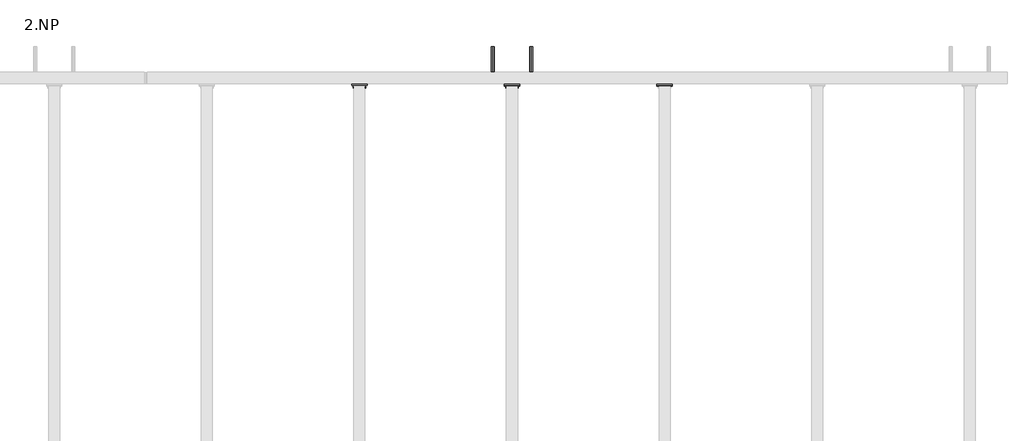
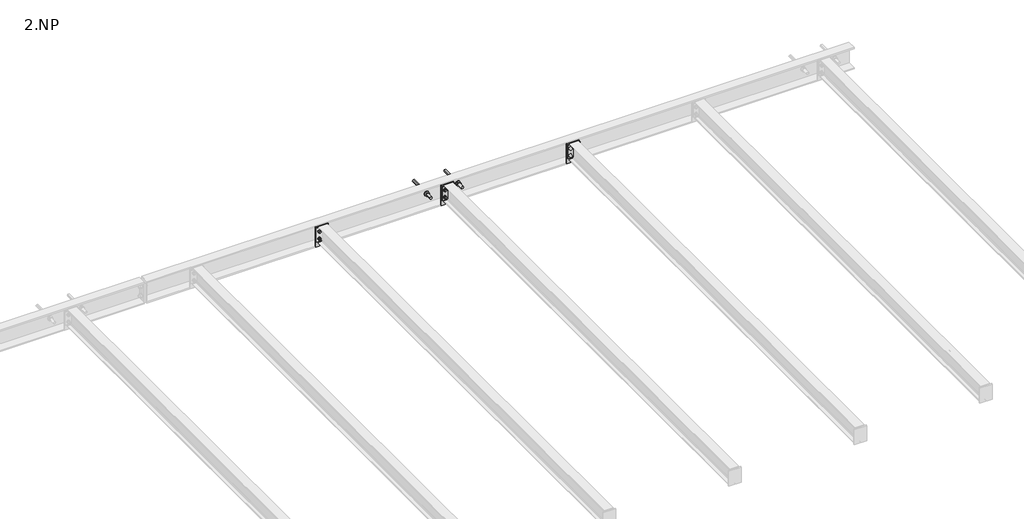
# One storey, part 12 of 18: 11 proxies.
"""IFC4 building model written with IfcOpenShell, lengths in millimetres."""

from ifc_helpers import new_model, si_unit, point, frame, frame_2d, origin, place, context, project, spatial, polyline, circle_curve, trimmed, segment, composite_curve, outline, extrude, element, save

model = new_model("IFC4")

# Units and contexts
model_context = context("Model", 3, world=origin())
ifc_project = project(units=[si_unit("LENGTHUNIT", "METRE", prefix="MILLI")], contexts=[model_context])

# Site, building, storey
site = spatial("IfcSite", under=ifc_project)
building = spatial("IfcBuilding", under=site)
storey = spatial("IfcBuildingStorey", under=building, Name="2.NP", Elevation=3000.0)

# Proxies
placement = place(None, origin())
element("IfcBuildingElementProxy", 1, Name="PLECH", ObjectType="PLECH", at=placement, inside=storey, context=model_context, shape_type="SweptSolid", body=[
    extrude(outline(polyline([(9000.0, 3775.0), (9100.0, 3775.0), (9100.0, 3767.0), (9000.0, 3767.0), (9000.0, 3775.0)])), frame((0.0, 0.0, 3175.0), z_axis=(0.0, 0.0, 1.0), x_axis=(1.0, 0.0, 0.0)), (0.0, 0.0, 1.0), 110.0),
])
element("IfcBuildingElementProxy", 2, Name="PLECH", ObjectType="PLECH", at=placement, inside=storey, context=model_context, shape_type="SweptSolid", body=[
    extrude(outline(polyline([(10000.0, 3775.0), (10100.0, 3775.0), (10100.0, 3767.0), (10000.0, 3767.0), (10000.0, 3775.0)])), frame((0.0, 0.0, 3175.0), z_axis=(0.0, 0.0, 1.0), x_axis=(1.0, 0.0, 0.0)), (0.0, 0.0, 1.0), 110.0),
])
element("IfcBuildingElementProxy", 3, Name="PLECH", ObjectType="PLECH", at=placement, inside=storey, context=model_context, shape_type="SweptSolid", body=[
    extrude(outline(polyline([(8000.0, 3785.0), (8100.0, 3785.0), (8100.0, 3775.0), (8000.0, 3775.0), (8000.0, 3785.0)])), frame((0.0, 0.0, 3128.0), z_axis=(0.0, 0.0, 1.0), x_axis=(1.0, 0.0, 0.0)), (0.0, 0.0, 1.0), 164.0),
])
element("IfcBuildingElementProxy", 4, Name="PLECH", ObjectType="PLECH", at=placement, inside=storey, context=model_context, shape_type="SweptSolid", body=[
    extrude(outline(composite_curve([segment(polyline([(3785.0, 3289.5), (3834.5, 3289.5)]), True, "CONTINUOUS"), segment(trimmed(circle_curve(frame_2d((3854.5, 3289.5)), 20.0), [point((3834.5, 3289.5))], [point((3854.5, 3269.5))], True, "CARTESIAN"), True, "CONTINUOUS"), segment(polyline([(3854.5, 3269.5), (3854.5, 3150.5)]), True, "CONTINUOUS"), segment(trimmed(circle_curve(frame_2d((3854.5, 3130.5)), 20.0), [point((3854.5, 3150.5))], [point((3834.5, 3130.5))], True, "CARTESIAN"), True, "CONTINUOUS"), segment(polyline([(3834.5, 3130.5), (3785.0, 3130.5), (3785.0, 3289.5)]), True, "CONTINUOUS")], self_intersect=False)), frame((8047.0, 0.0, 0.0), z_axis=(1.0, 0.0, 0.0), x_axis=(0.0, 1.0, 0.0)), (0.0, 0.0, 1.0), 6.0),
])
element("IfcBuildingElementProxy", 5, Name="PLECH", ObjectType="PLECH", at=placement, inside=storey, context=model_context, shape_type="SweptSolid", body=[
    extrude(outline(polyline([(9000.0, 3785.0), (9100.0, 3785.0), (9100.0, 3775.0), (9000.0, 3775.0), (9000.0, 3785.0)])), frame((0.0, 0.0, 3128.0), z_axis=(0.0, 0.0, 1.0), x_axis=(1.0, 0.0, 0.0)), (0.0, 0.0, 1.0), 164.0),
])
element("IfcBuildingElementProxy", 6, Name="PLECH", ObjectType="PLECH", at=placement, inside=storey, context=model_context, shape_type="SweptSolid", body=[
    extrude(outline(composite_curve([segment(polyline([(3785.0, 3289.5), (3834.5, 3289.5)]), True, "CONTINUOUS"), segment(trimmed(circle_curve(frame_2d((3854.5, 3289.5)), 20.0), [point((3834.5, 3289.5))], [point((3854.5, 3269.5))], True, "CARTESIAN"), True, "CONTINUOUS"), segment(polyline([(3854.5, 3269.5), (3854.5, 3150.5)]), True, "CONTINUOUS"), segment(trimmed(circle_curve(frame_2d((3854.5, 3130.5)), 20.0), [point((3854.5, 3150.5))], [point((3834.5, 3130.5))], True, "CARTESIAN"), True, "CONTINUOUS"), segment(polyline([(3834.5, 3130.5), (3785.0, 3130.5), (3785.0, 3289.5)]), True, "CONTINUOUS")], self_intersect=False)), frame((9047.0, 0.0, 0.0), z_axis=(1.0, 0.0, 0.0), x_axis=(0.0, 1.0, 0.0)), (0.0, 0.0, 1.0), 6.0),
])
element("IfcBuildingElementProxy", 7, Name="PLECH", ObjectType="PLECH", at=placement, inside=storey, context=model_context, shape_type="SweptSolid", body=[
    extrude(outline(polyline([(10000.0, 3785.0), (10100.0, 3785.0), (10100.0, 3775.0), (10000.0, 3775.0), (10000.0, 3785.0)])), frame((0.0, 0.0, 3128.0), z_axis=(0.0, 0.0, 1.0), x_axis=(1.0, 0.0, 0.0)), (0.0, 0.0, 1.0), 164.0),
])
element("IfcBuildingElementProxy", 8, Name="PLECH", ObjectType="PLECH", at=placement, inside=storey, context=model_context, shape_type="SweptSolid", body=[
    extrude(outline(composite_curve([segment(polyline([(3785.0, 3289.5), (3834.5, 3289.5)]), True, "CONTINUOUS"), segment(trimmed(circle_curve(frame_2d((3854.5, 3289.5)), 20.0), [point((3834.5, 3289.5))], [point((3854.5, 3269.5))], True, "CARTESIAN"), True, "CONTINUOUS"), segment(polyline([(3854.5, 3269.5), (3854.5, 3150.5)]), True, "CONTINUOUS"), segment(trimmed(circle_curve(frame_2d((3854.5, 3130.5)), 20.0), [point((3854.5, 3150.5))], [point((3834.5, 3130.5))], True, "CARTESIAN"), True, "CONTINUOUS"), segment(polyline([(3834.5, 3130.5), (3785.0, 3130.5), (3785.0, 3289.5)]), True, "CONTINUOUS")], self_intersect=False)), frame((10047.0, 0.0, 0.0), z_axis=(1.0, 0.0, 0.0), x_axis=(0.0, 1.0, 0.0)), (0.0, 0.0, 1.0), 6.0),
])
element("IfcBuildingElementProxy", 9, Name="Bolt assembly", ObjectType="Bolt assembly", at=placement, inside=storey, context=model_context, shape_type="SweptSolid", body=[
    extrude(outline(composite_curve([segment(trimmed(circle_curve(frame_2d((3260.0, 8020.0)), 6.5), [point((3260.0, 8026.5))], [point((3260.0, 8013.5))], False, "CARTESIAN"), True, "CONTINUOUS"), segment(trimmed(circle_curve(frame_2d((3260.0, 8020.0)), 6.5), [point((3260.0, 8013.5))], [point((3260.0, 8026.5))], False, "CARTESIAN"), True, "CONTINUOUS")], self_intersect=False)), frame((0.0, 3774.9, 0.0), z_axis=(0.0, 1.0, 0.0), x_axis=(0.0, 0.0, 1.0)), (0.0, 0.0, 1.0), 10.0),
    extrude(outline(polyline([(3260.0, 8030.9696551), (3269.5, 8025.4848276), (3269.5, 8014.5151724), (3260.0, 8009.0303449), (3250.5, 8014.5151724), (3250.5, 8025.4848276), (3260.0, 8030.9696551)])), frame((0.0, 3787.5, 0.0), z_axis=(0.0, 1.0, 0.0), x_axis=(0.0, 0.0, 1.0)), (0.0, 0.0, 1.0), 7.5),
    extrude(outline(composite_curve([segment(trimmed(circle_curve(frame_2d((3260.0, 8020.0)), 6.0), [point((3260.0, 8026.0))], [point((3260.0, 8014.0))], False, "CARTESIAN"), True, "CONTINUOUS"), segment(trimmed(circle_curve(frame_2d((3260.0, 8020.0)), 6.0), [point((3260.0, 8014.0))], [point((3260.0, 8026.0))], False, "CARTESIAN"), True, "CONTINUOUS")], self_intersect=False)), frame((0.0, 3747.5, 0.0), z_axis=(0.0, 1.0, 0.0), x_axis=(0.0, 0.0, 1.0)), (0.0, 0.0, 1.0), 40.0),
    extrude(outline(composite_curve([segment(trimmed(circle_curve(frame_2d((3260.0, 8020.0)), 12.0), [point((3260.0, 8032.0))], [point((3260.0, 8008.0))], False, "CARTESIAN"), True, "CONTINUOUS"), segment(trimmed(circle_curve(frame_2d((3260.0, 8020.0)), 12.0), [point((3260.0, 8008.0))], [point((3260.0, 8032.0))], False, "CARTESIAN"), True, "CONTINUOUS")], self_intersect=False)), frame((0.0, 3785.0, 0.0), z_axis=(0.0, 1.0, 0.0), x_axis=(0.0, 0.0, 1.0)), (0.0, 0.0, 1.0), 2.5),
    extrude(outline(composite_curve([segment(trimmed(circle_curve(frame_2d((3260.0, 8020.0)), 12.0), [point((3260.0, 8032.0))], [point((3260.0, 8008.0))], False, "CARTESIAN"), True, "CONTINUOUS"), segment(trimmed(circle_curve(frame_2d((3260.0, 8020.0)), 12.0), [point((3260.0, 8008.0))], [point((3260.0, 8032.0))], False, "CARTESIAN"), True, "CONTINUOUS")], self_intersect=False)), frame((0.0, 3764.5, 0.0), z_axis=(0.0, 1.0, 0.0), x_axis=(0.0, 0.0, 1.0)), (0.0, 0.0, 1.0), 2.5),
    extrude(outline(polyline([(3260.0, 8030.9696551), (3269.5, 8025.4848276), (3269.5, 8014.5151724), (3260.0, 8009.0303449), (3250.5, 8014.5151724), (3250.5, 8025.4848276), (3260.0, 8030.9696551)])), frame((0.0, 3754.5, 0.0), z_axis=(0.0, 1.0, 0.0), x_axis=(0.0, 0.0, 1.0)), (0.0, 0.0, 1.0), 10.0),
    extrude(outline(composite_curve([segment(trimmed(circle_curve(frame_2d((3260.0, 8020.0)), 6.5), [point((3260.0, 8026.5))], [point((3260.0, 8013.5))], False, "CARTESIAN"), True, "CONTINUOUS"), segment(trimmed(circle_curve(frame_2d((3260.0, 8020.0)), 6.5), [point((3260.0, 8013.5))], [point((3260.0, 8026.5))], False, "CARTESIAN"), True, "CONTINUOUS")], self_intersect=False)), frame((0.0, 3767.0, 0.0), z_axis=(0.0, 1.0, 0.0), x_axis=(0.0, 0.0, 1.0)), (0.0, 0.0, 1.0), 8.1),
    extrude(outline(composite_curve([segment(trimmed(circle_curve(frame_2d((3260.0, 8080.0)), 6.5), [point((3260.0, 8086.5))], [point((3260.0, 8073.5))], False, "CARTESIAN"), True, "CONTINUOUS"), segment(trimmed(circle_curve(frame_2d((3260.0, 8080.0)), 6.5), [point((3260.0, 8073.5))], [point((3260.0, 8086.5))], False, "CARTESIAN"), True, "CONTINUOUS")], self_intersect=False)), frame((0.0, 3774.9, 0.0), z_axis=(0.0, 1.0, 0.0), x_axis=(0.0, 0.0, 1.0)), (0.0, 0.0, 1.0), 10.0),
    extrude(outline(polyline([(3260.0, 8090.9696551), (3269.5, 8085.4848276), (3269.5, 8074.5151724), (3260.0, 8069.0303449), (3250.5, 8074.5151724), (3250.5, 8085.4848276), (3260.0, 8090.9696551)])), frame((0.0, 3787.5, 0.0), z_axis=(0.0, 1.0, 0.0), x_axis=(0.0, 0.0, 1.0)), (0.0, 0.0, 1.0), 7.5),
    extrude(outline(composite_curve([segment(trimmed(circle_curve(frame_2d((3260.0, 8080.0)), 6.0), [point((3260.0, 8086.0))], [point((3260.0, 8074.0))], False, "CARTESIAN"), True, "CONTINUOUS"), segment(trimmed(circle_curve(frame_2d((3260.0, 8080.0)), 6.0), [point((3260.0, 8074.0))], [point((3260.0, 8086.0))], False, "CARTESIAN"), True, "CONTINUOUS")], self_intersect=False)), frame((0.0, 3747.5, 0.0), z_axis=(0.0, 1.0, 0.0), x_axis=(0.0, 0.0, 1.0)), (0.0, 0.0, 1.0), 40.0),
    extrude(outline(composite_curve([segment(trimmed(circle_curve(frame_2d((3260.0, 8080.0)), 12.0), [point((3260.0, 8092.0))], [point((3260.0, 8068.0))], False, "CARTESIAN"), True, "CONTINUOUS"), segment(trimmed(circle_curve(frame_2d((3260.0, 8080.0)), 12.0), [point((3260.0, 8068.0))], [point((3260.0, 8092.0))], False, "CARTESIAN"), True, "CONTINUOUS")], self_intersect=False)), frame((0.0, 3785.0, 0.0), z_axis=(0.0, 1.0, 0.0), x_axis=(0.0, 0.0, 1.0)), (0.0, 0.0, 1.0), 2.5),
    extrude(outline(composite_curve([segment(trimmed(circle_curve(frame_2d((3260.0, 8080.0)), 12.0), [point((3260.0, 8092.0))], [point((3260.0, 8068.0))], False, "CARTESIAN"), True, "CONTINUOUS"), segment(trimmed(circle_curve(frame_2d((3260.0, 8080.0)), 12.0), [point((3260.0, 8068.0))], [point((3260.0, 8092.0))], False, "CARTESIAN"), True, "CONTINUOUS")], self_intersect=False)), frame((0.0, 3764.5, 0.0), z_axis=(0.0, 1.0, 0.0), x_axis=(0.0, 0.0, 1.0)), (0.0, 0.0, 1.0), 2.5),
    extrude(outline(polyline([(3260.0, 8090.9696551), (3269.5, 8085.4848276), (3269.5, 8074.5151724), (3260.0, 8069.0303449), (3250.5, 8074.5151724), (3250.5, 8085.4848276), (3260.0, 8090.9696551)])), frame((0.0, 3754.5, 0.0), z_axis=(0.0, 1.0, 0.0), x_axis=(0.0, 0.0, 1.0)), (0.0, 0.0, 1.0), 10.0),
    extrude(outline(composite_curve([segment(trimmed(circle_curve(frame_2d((3260.0, 8080.0)), 6.5), [point((3260.0, 8086.5))], [point((3260.0, 8073.5))], False, "CARTESIAN"), True, "CONTINUOUS"), segment(trimmed(circle_curve(frame_2d((3260.0, 8080.0)), 6.5), [point((3260.0, 8073.5))], [point((3260.0, 8086.5))], False, "CARTESIAN"), True, "CONTINUOUS")], self_intersect=False)), frame((0.0, 3767.0, 0.0), z_axis=(0.0, 1.0, 0.0), x_axis=(0.0, 0.0, 1.0)), (0.0, 0.0, 1.0), 8.1),
    extrude(outline(composite_curve([segment(trimmed(circle_curve(frame_2d((3200.0, 8020.0)), 6.5), [point((3200.0, 8026.5))], [point((3200.0, 8013.5))], False, "CARTESIAN"), True, "CONTINUOUS"), segment(trimmed(circle_curve(frame_2d((3200.0, 8020.0)), 6.5), [point((3200.0, 8013.5))], [point((3200.0, 8026.5))], False, "CARTESIAN"), True, "CONTINUOUS")], self_intersect=False)), frame((0.0, 3774.9, 0.0), z_axis=(0.0, 1.0, 0.0), x_axis=(0.0, 0.0, 1.0)), (0.0, 0.0, 1.0), 10.0),
    extrude(outline(polyline([(3200.0, 8030.9696551), (3209.5, 8025.4848276), (3209.5, 8014.5151724), (3200.0, 8009.0303449), (3190.5, 8014.5151724), (3190.5, 8025.4848276), (3200.0, 8030.9696551)])), frame((0.0, 3787.5, 0.0), z_axis=(0.0, 1.0, 0.0), x_axis=(0.0, 0.0, 1.0)), (0.0, 0.0, 1.0), 7.5),
    extrude(outline(composite_curve([segment(trimmed(circle_curve(frame_2d((3200.0, 8020.0)), 6.0), [point((3200.0, 8026.0))], [point((3200.0, 8014.0))], False, "CARTESIAN"), True, "CONTINUOUS"), segment(trimmed(circle_curve(frame_2d((3200.0, 8020.0)), 6.0), [point((3200.0, 8014.0))], [point((3200.0, 8026.0))], False, "CARTESIAN"), True, "CONTINUOUS")], self_intersect=False)), frame((0.0, 3747.5, 0.0), z_axis=(0.0, 1.0, 0.0), x_axis=(0.0, 0.0, 1.0)), (0.0, 0.0, 1.0), 40.0),
    extrude(outline(composite_curve([segment(trimmed(circle_curve(frame_2d((3200.0, 8020.0)), 12.0), [point((3200.0, 8032.0))], [point((3200.0, 8008.0))], False, "CARTESIAN"), True, "CONTINUOUS"), segment(trimmed(circle_curve(frame_2d((3200.0, 8020.0)), 12.0), [point((3200.0, 8008.0))], [point((3200.0, 8032.0))], False, "CARTESIAN"), True, "CONTINUOUS")], self_intersect=False)), frame((0.0, 3785.0, 0.0), z_axis=(0.0, 1.0, 0.0), x_axis=(0.0, 0.0, 1.0)), (0.0, 0.0, 1.0), 2.5),
    extrude(outline(composite_curve([segment(trimmed(circle_curve(frame_2d((3200.0, 8020.0)), 12.0), [point((3200.0, 8032.0))], [point((3200.0, 8008.0))], False, "CARTESIAN"), True, "CONTINUOUS"), segment(trimmed(circle_curve(frame_2d((3200.0, 8020.0)), 12.0), [point((3200.0, 8008.0))], [point((3200.0, 8032.0))], False, "CARTESIAN"), True, "CONTINUOUS")], self_intersect=False)), frame((0.0, 3764.5, 0.0), z_axis=(0.0, 1.0, 0.0), x_axis=(0.0, 0.0, 1.0)), (0.0, 0.0, 1.0), 2.5),
    extrude(outline(polyline([(3200.0, 8030.9696551), (3209.5, 8025.4848276), (3209.5, 8014.5151724), (3200.0, 8009.0303449), (3190.5, 8014.5151724), (3190.5, 8025.4848276), (3200.0, 8030.9696551)])), frame((0.0, 3754.5, 0.0), z_axis=(0.0, 1.0, 0.0), x_axis=(0.0, 0.0, 1.0)), (0.0, 0.0, 1.0), 10.0),
    extrude(outline(composite_curve([segment(trimmed(circle_curve(frame_2d((3200.0, 8020.0)), 6.5), [point((3200.0, 8026.5))], [point((3200.0, 8013.5))], False, "CARTESIAN"), True, "CONTINUOUS"), segment(trimmed(circle_curve(frame_2d((3200.0, 8020.0)), 6.5), [point((3200.0, 8013.5))], [point((3200.0, 8026.5))], False, "CARTESIAN"), True, "CONTINUOUS")], self_intersect=False)), frame((0.0, 3767.0, 0.0), z_axis=(0.0, 1.0, 0.0), x_axis=(0.0, 0.0, 1.0)), (0.0, 0.0, 1.0), 8.1),
    extrude(outline(composite_curve([segment(trimmed(circle_curve(frame_2d((3200.0, 8080.0)), 6.5), [point((3200.0, 8086.5))], [point((3200.0, 8073.5))], False, "CARTESIAN"), True, "CONTINUOUS"), segment(trimmed(circle_curve(frame_2d((3200.0, 8080.0)), 6.5), [point((3200.0, 8073.5))], [point((3200.0, 8086.5))], False, "CARTESIAN"), True, "CONTINUOUS")], self_intersect=False)), frame((0.0, 3774.9, 0.0), z_axis=(0.0, 1.0, 0.0), x_axis=(0.0, 0.0, 1.0)), (0.0, 0.0, 1.0), 10.0),
    extrude(outline(polyline([(3200.0, 8090.9696551), (3209.5, 8085.4848276), (3209.5, 8074.5151724), (3200.0, 8069.0303449), (3190.5, 8074.5151724), (3190.5, 8085.4848276), (3200.0, 8090.9696551)])), frame((0.0, 3787.5, 0.0), z_axis=(0.0, 1.0, 0.0), x_axis=(0.0, 0.0, 1.0)), (0.0, 0.0, 1.0), 7.5),
    extrude(outline(composite_curve([segment(trimmed(circle_curve(frame_2d((3200.0, 8080.0)), 6.0), [point((3200.0, 8086.0))], [point((3200.0, 8074.0))], False, "CARTESIAN"), True, "CONTINUOUS"), segment(trimmed(circle_curve(frame_2d((3200.0, 8080.0)), 6.0), [point((3200.0, 8074.0))], [point((3200.0, 8086.0))], False, "CARTESIAN"), True, "CONTINUOUS")], self_intersect=False)), frame((0.0, 3747.5, 0.0), z_axis=(0.0, 1.0, 0.0), x_axis=(0.0, 0.0, 1.0)), (0.0, 0.0, 1.0), 40.0),
    extrude(outline(composite_curve([segment(trimmed(circle_curve(frame_2d((3200.0, 8080.0)), 12.0), [point((3200.0, 8092.0))], [point((3200.0, 8068.0))], False, "CARTESIAN"), True, "CONTINUOUS"), segment(trimmed(circle_curve(frame_2d((3200.0, 8080.0)), 12.0), [point((3200.0, 8068.0))], [point((3200.0, 8092.0))], False, "CARTESIAN"), True, "CONTINUOUS")], self_intersect=False)), frame((0.0, 3785.0, 0.0), z_axis=(0.0, 1.0, 0.0), x_axis=(0.0, 0.0, 1.0)), (0.0, 0.0, 1.0), 2.5),
    extrude(outline(composite_curve([segment(trimmed(circle_curve(frame_2d((3200.0, 8080.0)), 12.0), [point((3200.0, 8092.0))], [point((3200.0, 8068.0))], False, "CARTESIAN"), True, "CONTINUOUS"), segment(trimmed(circle_curve(frame_2d((3200.0, 8080.0)), 12.0), [point((3200.0, 8068.0))], [point((3200.0, 8092.0))], False, "CARTESIAN"), True, "CONTINUOUS")], self_intersect=False)), frame((0.0, 3764.5, 0.0), z_axis=(0.0, 1.0, 0.0), x_axis=(0.0, 0.0, 1.0)), (0.0, 0.0, 1.0), 2.5),
    extrude(outline(polyline([(3200.0, 8090.9696551), (3209.5, 8085.4848276), (3209.5, 8074.5151724), (3200.0, 8069.0303449), (3190.5, 8074.5151724), (3190.5, 8085.4848276), (3200.0, 8090.9696551)])), frame((0.0, 3754.5, 0.0), z_axis=(0.0, 1.0, 0.0), x_axis=(0.0, 0.0, 1.0)), (0.0, 0.0, 1.0), 10.0),
    extrude(outline(composite_curve([segment(trimmed(circle_curve(frame_2d((3200.0, 8080.0)), 6.5), [point((3200.0, 8086.5))], [point((3200.0, 8073.5))], False, "CARTESIAN"), True, "CONTINUOUS"), segment(trimmed(circle_curve(frame_2d((3200.0, 8080.0)), 6.5), [point((3200.0, 8073.5))], [point((3200.0, 8086.5))], False, "CARTESIAN"), True, "CONTINUOUS")], self_intersect=False)), frame((0.0, 3767.0, 0.0), z_axis=(0.0, 1.0, 0.0), x_axis=(0.0, 0.0, 1.0)), (0.0, 0.0, 1.0), 8.1),
])
element("IfcBuildingElementProxy", 10, Name="Bolt assembly", ObjectType="Bolt assembly", at=placement, inside=storey, context=model_context, shape_type="SweptSolid", body=[
    extrude(outline(composite_curve([segment(trimmed(circle_curve(frame_2d((3260.0, 9020.0)), 6.5), [point((3260.0, 9026.5))], [point((3260.0, 9013.5))], False, "CARTESIAN"), True, "CONTINUOUS"), segment(trimmed(circle_curve(frame_2d((3260.0, 9020.0)), 6.5), [point((3260.0, 9013.5))], [point((3260.0, 9026.5))], False, "CARTESIAN"), True, "CONTINUOUS")], self_intersect=False)), frame((0.0, 3774.9, 0.0), z_axis=(0.0, 1.0, 0.0), x_axis=(0.0, 0.0, 1.0)), (0.0, 0.0, 1.0), 10.0),
    extrude(outline(polyline([(3260.0, 9030.9696551), (3269.5, 9025.4848276), (3269.5, 9014.5151724), (3260.0, 9009.0303449), (3250.5, 9014.5151724), (3250.5, 9025.4848276), (3260.0, 9030.9696551)])), frame((0.0, 3787.5, 0.0), z_axis=(0.0, 1.0, 0.0), x_axis=(0.0, 0.0, 1.0)), (0.0, 0.0, 1.0), 7.5),
    extrude(outline(composite_curve([segment(trimmed(circle_curve(frame_2d((3260.0, 9020.0)), 6.0), [point((3260.0, 9026.0))], [point((3260.0, 9014.0))], False, "CARTESIAN"), True, "CONTINUOUS"), segment(trimmed(circle_curve(frame_2d((3260.0, 9020.0)), 6.0), [point((3260.0, 9014.0))], [point((3260.0, 9026.0))], False, "CARTESIAN"), True, "CONTINUOUS")], self_intersect=False)), frame((0.0, 3747.5, 0.0), z_axis=(0.0, 1.0, 0.0), x_axis=(0.0, 0.0, 1.0)), (0.0, 0.0, 1.0), 40.0),
    extrude(outline(composite_curve([segment(trimmed(circle_curve(frame_2d((3260.0, 9020.0)), 12.0), [point((3260.0, 9032.0))], [point((3260.0, 9008.0))], False, "CARTESIAN"), True, "CONTINUOUS"), segment(trimmed(circle_curve(frame_2d((3260.0, 9020.0)), 12.0), [point((3260.0, 9008.0))], [point((3260.0, 9032.0))], False, "CARTESIAN"), True, "CONTINUOUS")], self_intersect=False)), frame((0.0, 3785.0, 0.0), z_axis=(0.0, 1.0, 0.0), x_axis=(0.0, 0.0, 1.0)), (0.0, 0.0, 1.0), 2.5),
    extrude(outline(composite_curve([segment(trimmed(circle_curve(frame_2d((3260.0, 9020.0)), 12.0), [point((3260.0, 9032.0))], [point((3260.0, 9008.0))], False, "CARTESIAN"), True, "CONTINUOUS"), segment(trimmed(circle_curve(frame_2d((3260.0, 9020.0)), 12.0), [point((3260.0, 9008.0))], [point((3260.0, 9032.0))], False, "CARTESIAN"), True, "CONTINUOUS")], self_intersect=False)), frame((0.0, 3764.5, 0.0), z_axis=(0.0, 1.0, 0.0), x_axis=(0.0, 0.0, 1.0)), (0.0, 0.0, 1.0), 2.5),
    extrude(outline(polyline([(3260.0, 9030.9696551), (3269.5, 9025.4848276), (3269.5, 9014.5151724), (3260.0, 9009.0303449), (3250.5, 9014.5151724), (3250.5, 9025.4848276), (3260.0, 9030.9696551)])), frame((0.0, 3754.5, 0.0), z_axis=(0.0, 1.0, 0.0), x_axis=(0.0, 0.0, 1.0)), (0.0, 0.0, 1.0), 10.0),
    extrude(outline(composite_curve([segment(trimmed(circle_curve(frame_2d((3260.0, 9020.0)), 6.5), [point((3260.0, 9026.5))], [point((3260.0, 9013.5))], False, "CARTESIAN"), True, "CONTINUOUS"), segment(trimmed(circle_curve(frame_2d((3260.0, 9020.0)), 6.5), [point((3260.0, 9013.5))], [point((3260.0, 9026.5))], False, "CARTESIAN"), True, "CONTINUOUS")], self_intersect=False)), frame((0.0, 3767.0, 0.0), z_axis=(0.0, 1.0, 0.0), x_axis=(0.0, 0.0, 1.0)), (0.0, 0.0, 1.0), 8.1),
    extrude(outline(composite_curve([segment(trimmed(circle_curve(frame_2d((3260.0, 9080.0)), 6.5), [point((3260.0, 9086.5))], [point((3260.0, 9073.5))], False, "CARTESIAN"), True, "CONTINUOUS"), segment(trimmed(circle_curve(frame_2d((3260.0, 9080.0)), 6.5), [point((3260.0, 9073.5))], [point((3260.0, 9086.5))], False, "CARTESIAN"), True, "CONTINUOUS")], self_intersect=False)), frame((0.0, 3774.9, 0.0), z_axis=(0.0, 1.0, 0.0), x_axis=(0.0, 0.0, 1.0)), (0.0, 0.0, 1.0), 10.0),
    extrude(outline(polyline([(3260.0, 9090.9696551), (3269.5, 9085.4848276), (3269.5, 9074.5151724), (3260.0, 9069.0303449), (3250.5, 9074.5151724), (3250.5, 9085.4848276), (3260.0, 9090.9696551)])), frame((0.0, 3787.5, 0.0), z_axis=(0.0, 1.0, 0.0), x_axis=(0.0, 0.0, 1.0)), (0.0, 0.0, 1.0), 7.5),
    extrude(outline(composite_curve([segment(trimmed(circle_curve(frame_2d((3260.0, 9080.0)), 6.0), [point((3260.0, 9086.0))], [point((3260.0, 9074.0))], False, "CARTESIAN"), True, "CONTINUOUS"), segment(trimmed(circle_curve(frame_2d((3260.0, 9080.0)), 6.0), [point((3260.0, 9074.0))], [point((3260.0, 9086.0))], False, "CARTESIAN"), True, "CONTINUOUS")], self_intersect=False)), frame((0.0, 3747.5, 0.0), z_axis=(0.0, 1.0, 0.0), x_axis=(0.0, 0.0, 1.0)), (0.0, 0.0, 1.0), 40.0),
    extrude(outline(composite_curve([segment(trimmed(circle_curve(frame_2d((3260.0, 9080.0)), 12.0), [point((3260.0, 9092.0))], [point((3260.0, 9068.0))], False, "CARTESIAN"), True, "CONTINUOUS"), segment(trimmed(circle_curve(frame_2d((3260.0, 9080.0)), 12.0), [point((3260.0, 9068.0))], [point((3260.0, 9092.0))], False, "CARTESIAN"), True, "CONTINUOUS")], self_intersect=False)), frame((0.0, 3785.0, 0.0), z_axis=(0.0, 1.0, 0.0), x_axis=(0.0, 0.0, 1.0)), (0.0, 0.0, 1.0), 2.5),
    extrude(outline(composite_curve([segment(trimmed(circle_curve(frame_2d((3260.0, 9080.0)), 12.0), [point((3260.0, 9092.0))], [point((3260.0, 9068.0))], False, "CARTESIAN"), True, "CONTINUOUS"), segment(trimmed(circle_curve(frame_2d((3260.0, 9080.0)), 12.0), [point((3260.0, 9068.0))], [point((3260.0, 9092.0))], False, "CARTESIAN"), True, "CONTINUOUS")], self_intersect=False)), frame((0.0, 3764.5, 0.0), z_axis=(0.0, 1.0, 0.0), x_axis=(0.0, 0.0, 1.0)), (0.0, 0.0, 1.0), 2.5),
    extrude(outline(polyline([(3260.0, 9090.9696551), (3269.5, 9085.4848276), (3269.5, 9074.5151724), (3260.0, 9069.0303449), (3250.5, 9074.5151724), (3250.5, 9085.4848276), (3260.0, 9090.9696551)])), frame((0.0, 3754.5, 0.0), z_axis=(0.0, 1.0, 0.0), x_axis=(0.0, 0.0, 1.0)), (0.0, 0.0, 1.0), 10.0),
    extrude(outline(composite_curve([segment(trimmed(circle_curve(frame_2d((3260.0, 9080.0)), 6.5), [point((3260.0, 9086.5))], [point((3260.0, 9073.5))], False, "CARTESIAN"), True, "CONTINUOUS"), segment(trimmed(circle_curve(frame_2d((3260.0, 9080.0)), 6.5), [point((3260.0, 9073.5))], [point((3260.0, 9086.5))], False, "CARTESIAN"), True, "CONTINUOUS")], self_intersect=False)), frame((0.0, 3767.0, 0.0), z_axis=(0.0, 1.0, 0.0), x_axis=(0.0, 0.0, 1.0)), (0.0, 0.0, 1.0), 8.1),
    extrude(outline(composite_curve([segment(trimmed(circle_curve(frame_2d((3200.0, 9020.0)), 6.5), [point((3200.0, 9026.5))], [point((3200.0, 9013.5))], False, "CARTESIAN"), True, "CONTINUOUS"), segment(trimmed(circle_curve(frame_2d((3200.0, 9020.0)), 6.5), [point((3200.0, 9013.5))], [point((3200.0, 9026.5))], False, "CARTESIAN"), True, "CONTINUOUS")], self_intersect=False)), frame((0.0, 3774.9, 0.0), z_axis=(0.0, 1.0, 0.0), x_axis=(0.0, 0.0, 1.0)), (0.0, 0.0, 1.0), 10.0),
    extrude(outline(polyline([(3200.0, 9030.9696551), (3209.5, 9025.4848276), (3209.5, 9014.5151724), (3200.0, 9009.0303449), (3190.5, 9014.5151724), (3190.5, 9025.4848276), (3200.0, 9030.9696551)])), frame((0.0, 3787.5, 0.0), z_axis=(0.0, 1.0, 0.0), x_axis=(0.0, 0.0, 1.0)), (0.0, 0.0, 1.0), 7.5),
    extrude(outline(composite_curve([segment(trimmed(circle_curve(frame_2d((3200.0, 9020.0)), 6.0), [point((3200.0, 9026.0))], [point((3200.0, 9014.0))], False, "CARTESIAN"), True, "CONTINUOUS"), segment(trimmed(circle_curve(frame_2d((3200.0, 9020.0)), 6.0), [point((3200.0, 9014.0))], [point((3200.0, 9026.0))], False, "CARTESIAN"), True, "CONTINUOUS")], self_intersect=False)), frame((0.0, 3747.5, 0.0), z_axis=(0.0, 1.0, 0.0), x_axis=(0.0, 0.0, 1.0)), (0.0, 0.0, 1.0), 40.0),
    extrude(outline(composite_curve([segment(trimmed(circle_curve(frame_2d((3200.0, 9020.0)), 12.0), [point((3200.0, 9032.0))], [point((3200.0, 9008.0))], False, "CARTESIAN"), True, "CONTINUOUS"), segment(trimmed(circle_curve(frame_2d((3200.0, 9020.0)), 12.0), [point((3200.0, 9008.0))], [point((3200.0, 9032.0))], False, "CARTESIAN"), True, "CONTINUOUS")], self_intersect=False)), frame((0.0, 3785.0, 0.0), z_axis=(0.0, 1.0, 0.0), x_axis=(0.0, 0.0, 1.0)), (0.0, 0.0, 1.0), 2.5),
    extrude(outline(composite_curve([segment(trimmed(circle_curve(frame_2d((3200.0, 9020.0)), 12.0), [point((3200.0, 9032.0))], [point((3200.0, 9008.0))], False, "CARTESIAN"), True, "CONTINUOUS"), segment(trimmed(circle_curve(frame_2d((3200.0, 9020.0)), 12.0), [point((3200.0, 9008.0))], [point((3200.0, 9032.0))], False, "CARTESIAN"), True, "CONTINUOUS")], self_intersect=False)), frame((0.0, 3764.5, 0.0), z_axis=(0.0, 1.0, 0.0), x_axis=(0.0, 0.0, 1.0)), (0.0, 0.0, 1.0), 2.5),
    extrude(outline(polyline([(3200.0, 9030.9696551), (3209.5, 9025.4848276), (3209.5, 9014.5151724), (3200.0, 9009.0303449), (3190.5, 9014.5151724), (3190.5, 9025.4848276), (3200.0, 9030.9696551)])), frame((0.0, 3754.5, 0.0), z_axis=(0.0, 1.0, 0.0), x_axis=(0.0, 0.0, 1.0)), (0.0, 0.0, 1.0), 10.0),
    extrude(outline(composite_curve([segment(trimmed(circle_curve(frame_2d((3200.0, 9020.0)), 6.5), [point((3200.0, 9026.5))], [point((3200.0, 9013.5))], False, "CARTESIAN"), True, "CONTINUOUS"), segment(trimmed(circle_curve(frame_2d((3200.0, 9020.0)), 6.5), [point((3200.0, 9013.5))], [point((3200.0, 9026.5))], False, "CARTESIAN"), True, "CONTINUOUS")], self_intersect=False)), frame((0.0, 3767.0, 0.0), z_axis=(0.0, 1.0, 0.0), x_axis=(0.0, 0.0, 1.0)), (0.0, 0.0, 1.0), 8.1),
    extrude(outline(composite_curve([segment(trimmed(circle_curve(frame_2d((3200.0, 9080.0)), 6.5), [point((3200.0, 9086.5))], [point((3200.0, 9073.5))], False, "CARTESIAN"), True, "CONTINUOUS"), segment(trimmed(circle_curve(frame_2d((3200.0, 9080.0)), 6.5), [point((3200.0, 9073.5))], [point((3200.0, 9086.5))], False, "CARTESIAN"), True, "CONTINUOUS")], self_intersect=False)), frame((0.0, 3774.9, 0.0), z_axis=(0.0, 1.0, 0.0), x_axis=(0.0, 0.0, 1.0)), (0.0, 0.0, 1.0), 10.0),
    extrude(outline(polyline([(3200.0, 9090.9696551), (3209.5, 9085.4848276), (3209.5, 9074.5151724), (3200.0, 9069.0303449), (3190.5, 9074.5151724), (3190.5, 9085.4848276), (3200.0, 9090.9696551)])), frame((0.0, 3787.5, 0.0), z_axis=(0.0, 1.0, 0.0), x_axis=(0.0, 0.0, 1.0)), (0.0, 0.0, 1.0), 7.5),
    extrude(outline(composite_curve([segment(trimmed(circle_curve(frame_2d((3200.0, 9080.0)), 6.0), [point((3200.0, 9086.0))], [point((3200.0, 9074.0))], False, "CARTESIAN"), True, "CONTINUOUS"), segment(trimmed(circle_curve(frame_2d((3200.0, 9080.0)), 6.0), [point((3200.0, 9074.0))], [point((3200.0, 9086.0))], False, "CARTESIAN"), True, "CONTINUOUS")], self_intersect=False)), frame((0.0, 3747.5, 0.0), z_axis=(0.0, 1.0, 0.0), x_axis=(0.0, 0.0, 1.0)), (0.0, 0.0, 1.0), 40.0),
    extrude(outline(composite_curve([segment(trimmed(circle_curve(frame_2d((3200.0, 9080.0)), 12.0), [point((3200.0, 9092.0))], [point((3200.0, 9068.0))], False, "CARTESIAN"), True, "CONTINUOUS"), segment(trimmed(circle_curve(frame_2d((3200.0, 9080.0)), 12.0), [point((3200.0, 9068.0))], [point((3200.0, 9092.0))], False, "CARTESIAN"), True, "CONTINUOUS")], self_intersect=False)), frame((0.0, 3785.0, 0.0), z_axis=(0.0, 1.0, 0.0), x_axis=(0.0, 0.0, 1.0)), (0.0, 0.0, 1.0), 2.5),
    extrude(outline(composite_curve([segment(trimmed(circle_curve(frame_2d((3200.0, 9080.0)), 12.0), [point((3200.0, 9092.0))], [point((3200.0, 9068.0))], False, "CARTESIAN"), True, "CONTINUOUS"), segment(trimmed(circle_curve(frame_2d((3200.0, 9080.0)), 12.0), [point((3200.0, 9068.0))], [point((3200.0, 9092.0))], False, "CARTESIAN"), True, "CONTINUOUS")], self_intersect=False)), frame((0.0, 3764.5, 0.0), z_axis=(0.0, 1.0, 0.0), x_axis=(0.0, 0.0, 1.0)), (0.0, 0.0, 1.0), 2.5),
    extrude(outline(polyline([(3200.0, 9090.9696551), (3209.5, 9085.4848276), (3209.5, 9074.5151724), (3200.0, 9069.0303449), (3190.5, 9074.5151724), (3190.5, 9085.4848276), (3200.0, 9090.9696551)])), frame((0.0, 3754.5, 0.0), z_axis=(0.0, 1.0, 0.0), x_axis=(0.0, 0.0, 1.0)), (0.0, 0.0, 1.0), 10.0),
    extrude(outline(composite_curve([segment(trimmed(circle_curve(frame_2d((3200.0, 9080.0)), 6.5), [point((3200.0, 9086.5))], [point((3200.0, 9073.5))], False, "CARTESIAN"), True, "CONTINUOUS"), segment(trimmed(circle_curve(frame_2d((3200.0, 9080.0)), 6.5), [point((3200.0, 9073.5))], [point((3200.0, 9086.5))], False, "CARTESIAN"), True, "CONTINUOUS")], self_intersect=False)), frame((0.0, 3767.0, 0.0), z_axis=(0.0, 1.0, 0.0), x_axis=(0.0, 0.0, 1.0)), (0.0, 0.0, 1.0), 8.1),
])
element("IfcBuildingElementProxy", 11, Name="Bolt assembly", ObjectType="Bolt assembly", at=placement, inside=storey, context=model_context, shape_type="SweptSolid", body=[
    extrude(outline(polyline([(3210.0, 8934.8149546), (3218.5, 8929.9074773), (3218.5, 8920.0925227), (3210.0, 8915.1850454), (3201.5, 8920.0925227), (3201.5, 8929.9074773), (3210.0, 8934.8149546)])), frame((0.0, 3860.0, 0.0), z_axis=(0.0, 1.0, 0.0), x_axis=(0.0, 0.0, 1.0)), (0.0, 0.0, 1.0), 168.0),
    extrude(outline(composite_curve([segment(trimmed(circle_curve(frame_2d((3210.0, 8925.0)), 10.0), [point((3210.0, 8935.0))], [point((3210.0, 8915.0))], False, "CARTESIAN"), True, "CONTINUOUS"), segment(trimmed(circle_curve(frame_2d((3210.0, 8925.0)), 10.0), [point((3210.0, 8915.0))], [point((3210.0, 8935.0))], False, "CARTESIAN"), True, "CONTINUOUS")], self_intersect=False)), frame((0.0, 3788.0, 0.0), z_axis=(0.0, 1.0, 0.0), x_axis=(0.0, 0.0, 1.0)), (0.0, 0.0, 1.0), 72.0),
    extrude(outline(composite_curve([segment(trimmed(circle_curve(frame_2d((3210.0, 8925.0)), 18.5), [point((3210.0, 8943.5))], [point((3210.0, 8906.5))], False, "CARTESIAN"), True, "CONTINUOUS"), segment(trimmed(circle_curve(frame_2d((3210.0, 8925.0)), 18.5), [point((3210.0, 8906.5))], [point((3210.0, 8943.5))], False, "CARTESIAN"), True, "CONTINUOUS")], self_intersect=False)), frame((0.0, 3851.5, 0.0), z_axis=(0.0, 1.0, 0.0), x_axis=(0.0, 0.0, 1.0)), (0.0, 0.0, 1.0), 3.0),
    extrude(outline(polyline([(3210.0, 8942.3205081), (3225.0, 8933.660254), (3225.0, 8916.339746), (3210.0, 8907.6794919), (3195.0, 8916.339746), (3195.0, 8933.660254), (3210.0, 8942.3205081)])), frame((0.0, 3835.5, 0.0), z_axis=(0.0, 1.0, 0.0), x_axis=(0.0, 0.0, 1.0)), (0.0, 0.0, 1.0), 16.0),
    extrude(outline(composite_curve([segment(trimmed(circle_curve(frame_2d((3210.0, 8925.0)), 11.0), [point((3210.0, 8936.0))], [point((3210.0, 8914.0))], False, "CARTESIAN"), True, "CONTINUOUS"), segment(trimmed(circle_curve(frame_2d((3210.0, 8925.0)), 11.0), [point((3210.0, 8914.0))], [point((3210.0, 8936.0))], False, "CARTESIAN"), True, "CONTINUOUS")], self_intersect=False)), frame((0.0, 3854.4, 0.0), z_axis=(0.0, 1.0, 0.0), x_axis=(0.0, 0.0, 1.0)), (0.0, 0.0, 1.0), 5.6),
    extrude(outline(polyline([(3210.0, 9184.8149546), (3218.5, 9179.9074773), (3218.5, 9170.0925227), (3210.0, 9165.1850454), (3201.5, 9170.0925227), (3201.5, 9179.9074773), (3210.0, 9184.8149546)])), frame((0.0, 3860.0, 0.0), z_axis=(0.0, 1.0, 0.0), x_axis=(0.0, 0.0, 1.0)), (0.0, 0.0, 1.0), 168.0),
    extrude(outline(composite_curve([segment(trimmed(circle_curve(frame_2d((3210.0, 9175.0)), 10.0), [point((3210.0, 9185.0))], [point((3210.0, 9165.0))], False, "CARTESIAN"), True, "CONTINUOUS"), segment(trimmed(circle_curve(frame_2d((3210.0, 9175.0)), 10.0), [point((3210.0, 9165.0))], [point((3210.0, 9185.0))], False, "CARTESIAN"), True, "CONTINUOUS")], self_intersect=False)), frame((0.0, 3788.0, 0.0), z_axis=(0.0, 1.0, 0.0), x_axis=(0.0, 0.0, 1.0)), (0.0, 0.0, 1.0), 72.0),
    extrude(outline(composite_curve([segment(trimmed(circle_curve(frame_2d((3210.0, 9175.0)), 18.5), [point((3210.0, 9193.5))], [point((3210.0, 9156.5))], False, "CARTESIAN"), True, "CONTINUOUS"), segment(trimmed(circle_curve(frame_2d((3210.0, 9175.0)), 18.5), [point((3210.0, 9156.5))], [point((3210.0, 9193.5))], False, "CARTESIAN"), True, "CONTINUOUS")], self_intersect=False)), frame((0.0, 3851.5, 0.0), z_axis=(0.0, 1.0, 0.0), x_axis=(0.0, 0.0, 1.0)), (0.0, 0.0, 1.0), 3.0),
    extrude(outline(polyline([(3210.0, 9192.3205081), (3225.0, 9183.660254), (3225.0, 9166.339746), (3210.0, 9157.6794919), (3195.0, 9166.339746), (3195.0, 9183.660254), (3210.0, 9192.3205081)])), frame((0.0, 3835.5, 0.0), z_axis=(0.0, 1.0, 0.0), x_axis=(0.0, 0.0, 1.0)), (0.0, 0.0, 1.0), 16.0),
    extrude(outline(composite_curve([segment(trimmed(circle_curve(frame_2d((3210.0, 9175.0)), 11.0), [point((3210.0, 9186.0))], [point((3210.0, 9164.0))], False, "CARTESIAN"), True, "CONTINUOUS"), segment(trimmed(circle_curve(frame_2d((3210.0, 9175.0)), 11.0), [point((3210.0, 9164.0))], [point((3210.0, 9186.0))], False, "CARTESIAN"), True, "CONTINUOUS")], self_intersect=False)), frame((0.0, 3854.4, 0.0), z_axis=(0.0, 1.0, 0.0), x_axis=(0.0, 0.0, 1.0)), (0.0, 0.0, 1.0), 5.6),
])

save(model, "model.ifc")
